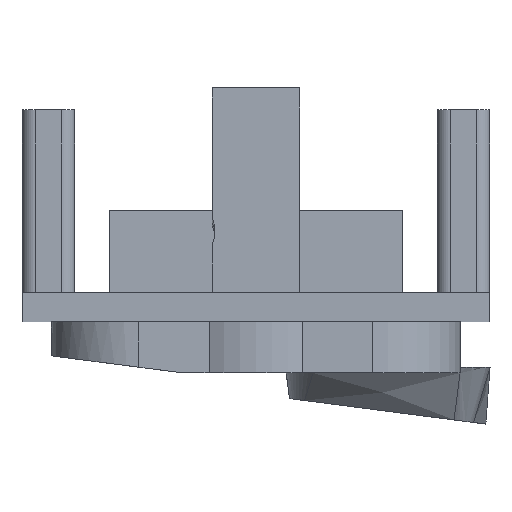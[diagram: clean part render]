
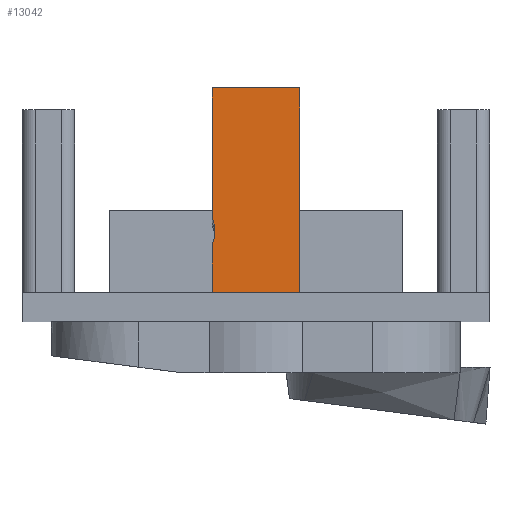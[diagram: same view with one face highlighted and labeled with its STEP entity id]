
A CAD part, left-side view. The second image highlights one B-rep face of the part: STEP entity #13042.
In plain terms, the highlighted planar face has unit normal (-1, 0, 0).
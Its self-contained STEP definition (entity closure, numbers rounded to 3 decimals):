
#6708 = PLANE('',#6709);
#6709 = AXIS2_PLACEMENT_3D('',#6710,#6711,#6712);
#6710 = CARTESIAN_POINT('',(-13.2,-55.,-9.9));
#6711 = DIRECTION('',(0.,0.,1.));
#6712 = DIRECTION('',(1.,0.,-0.));
#11300 = VERTEX_POINT('',#11301);
#11301 = CARTESIAN_POINT('',(-10.9,-48.5,-9.9));
#11317 = PLANE('',#11318);
#11318 = AXIS2_PLACEMENT_3D('',#11319,#11320,#11321);
#11319 = CARTESIAN_POINT('',(-10.,-48.5,-6.955));
#11320 = DIRECTION('',(0.,1.,0.));
#11321 = DIRECTION('',(0.,-0.,1.));
#11329 = EDGE_CURVE('',#11330,#11300,#11332,.T.);
#11330 = VERTEX_POINT('',#11331);
#11331 = CARTESIAN_POINT('',(-10.9,-45.5,-9.9));
#11332 = SURFACE_CURVE('',#11333,(#11337,#11344),.PCURVE_S1.);
#11333 = LINE('',#11334,#11335);
#11334 = CARTESIAN_POINT('',(-10.9,-51.,-9.9));
#11335 = VECTOR('',#11336,1.);
#11336 = DIRECTION('',(0.,-1.,0.));
#11337 = PCURVE('',#6708,#11338);
#11338 = DEFINITIONAL_REPRESENTATION('',(#11339),#11343);
#11339 = LINE('',#11340,#11341);
#11340 = CARTESIAN_POINT('',(2.3,4.));
#11341 = VECTOR('',#11342,1.);
#11342 = DIRECTION('',(0.,-1.));
#11343 = ( GEOMETRIC_REPRESENTATION_CONTEXT(2) 
PARAMETRIC_REPRESENTATION_CONTEXT() REPRESENTATION_CONTEXT('2D SPACE',''
  ) );
#11344 = PCURVE('',#11345,#11350);
#11345 = PLANE('',#11346);
#11346 = AXIS2_PLACEMENT_3D('',#11347,#11348,#11349);
#11347 = CARTESIAN_POINT('',(-10.9,-47.,-6.955));
#11348 = DIRECTION('',(1.,0.,0.));
#11349 = DIRECTION('',(0.,0.,-1.));
#11350 = DEFINITIONAL_REPRESENTATION('',(#11351),#11355);
#11351 = LINE('',#11352,#11353);
#11352 = CARTESIAN_POINT('',(2.945,-4.));
#11353 = VECTOR('',#11354,1.);
#11354 = DIRECTION('',(0.,-1.));
#11355 = ( GEOMETRIC_REPRESENTATION_CONTEXT(2) 
PARAMETRIC_REPRESENTATION_CONTEXT() REPRESENTATION_CONTEXT('2D SPACE',''
  ) );
#11373 = PLANE('',#11374);
#11374 = AXIS2_PLACEMENT_3D('',#11375,#11376,#11377);
#11375 = CARTESIAN_POINT('',(-10.,-45.5,-6.955));
#11376 = DIRECTION('',(0.,-1.,0.));
#11377 = DIRECTION('',(0.,0.,-1.));
#12994 = EDGE_CURVE('',#12995,#11300,#12997,.T.);
#12995 = VERTEX_POINT('',#12996);
#12996 = CARTESIAN_POINT('',(-10.9,-48.5,-2.9));
#12997 = SURFACE_CURVE('',#12998,(#13002,#13009),.PCURVE_S1.);
#12998 = LINE('',#12999,#13000);
#12999 = CARTESIAN_POINT('',(-10.9,-48.5,-2.95));
#13000 = VECTOR('',#13001,1.);
#13001 = DIRECTION('',(0.,0.,-1.));
#13002 = PCURVE('',#11317,#13003);
#13003 = DEFINITIONAL_REPRESENTATION('',(#13004),#13008);
#13004 = LINE('',#13005,#13006);
#13005 = CARTESIAN_POINT('',(4.005,-0.9));
#13006 = VECTOR('',#13007,1.);
#13007 = DIRECTION('',(-1.,0.));
#13008 = ( GEOMETRIC_REPRESENTATION_CONTEXT(2) 
PARAMETRIC_REPRESENTATION_CONTEXT() REPRESENTATION_CONTEXT('2D SPACE',''
  ) );
#13009 = PCURVE('',#11345,#13010);
#13010 = DEFINITIONAL_REPRESENTATION('',(#13011),#13015);
#13011 = LINE('',#13012,#13013);
#13012 = CARTESIAN_POINT('',(-4.005,-1.5));
#13013 = VECTOR('',#13014,1.);
#13014 = DIRECTION('',(1.,0.));
#13015 = ( GEOMETRIC_REPRESENTATION_CONTEXT(2) 
PARAMETRIC_REPRESENTATION_CONTEXT() REPRESENTATION_CONTEXT('2D SPACE',''
  ) );
#13031 = PLANE('',#13032);
#13032 = AXIS2_PLACEMENT_3D('',#13033,#13034,#13035);
#13033 = CARTESIAN_POINT('',(-10.,-47.,-2.9));
#13034 = DIRECTION('',(0.,0.,1.));
#13035 = DIRECTION('',(1.,0.,-0.));
#13042 = ADVANCED_FACE('',(#13043),#11345,.F.);
#13043 = FACE_BOUND('',#13044,.F.);
#13044 = EDGE_LOOP('',(#13045,#13068,#13069,#13070,#13093,#13122));
#13045 = ORIENTED_EDGE('',*,*,#13046,.T.);
#13046 = EDGE_CURVE('',#13047,#12995,#13049,.T.);
#13047 = VERTEX_POINT('',#13048);
#13048 = CARTESIAN_POINT('',(-10.9,-45.5,-2.9));
#13049 = SURFACE_CURVE('',#13050,(#13054,#13061),.PCURVE_S1.);
#13050 = LINE('',#13051,#13052);
#13051 = CARTESIAN_POINT('',(-10.9,-47.,-2.9));
#13052 = VECTOR('',#13053,1.);
#13053 = DIRECTION('',(0.,-1.,0.));
#13054 = PCURVE('',#11345,#13055);
#13055 = DEFINITIONAL_REPRESENTATION('',(#13056),#13060);
#13056 = LINE('',#13057,#13058);
#13057 = CARTESIAN_POINT('',(-4.055,0.));
#13058 = VECTOR('',#13059,1.);
#13059 = DIRECTION('',(0.,-1.));
#13060 = ( GEOMETRIC_REPRESENTATION_CONTEXT(2) 
PARAMETRIC_REPRESENTATION_CONTEXT() REPRESENTATION_CONTEXT('2D SPACE',''
  ) );
#13061 = PCURVE('',#13031,#13062);
#13062 = DEFINITIONAL_REPRESENTATION('',(#13063),#13067);
#13063 = LINE('',#13064,#13065);
#13064 = CARTESIAN_POINT('',(-0.9,0.));
#13065 = VECTOR('',#13066,1.);
#13066 = DIRECTION('',(0.,-1.));
#13067 = ( GEOMETRIC_REPRESENTATION_CONTEXT(2) 
PARAMETRIC_REPRESENTATION_CONTEXT() REPRESENTATION_CONTEXT('2D SPACE',''
  ) );
#13068 = ORIENTED_EDGE('',*,*,#12994,.T.);
#13069 = ORIENTED_EDGE('',*,*,#11329,.F.);
#13070 = ORIENTED_EDGE('',*,*,#13071,.F.);
#13071 = EDGE_CURVE('',#13072,#11330,#13074,.T.);
#13072 = VERTEX_POINT('',#13073);
#13073 = CARTESIAN_POINT('',(-10.9,-45.5,-8.258));
#13074 = SURFACE_CURVE('',#13075,(#13079,#13086),.PCURVE_S1.);
#13075 = LINE('',#13076,#13077);
#13076 = CARTESIAN_POINT('',(-10.9,-45.5,-2.95));
#13077 = VECTOR('',#13078,1.);
#13078 = DIRECTION('',(0.,0.,-1.));
#13079 = PCURVE('',#11345,#13080);
#13080 = DEFINITIONAL_REPRESENTATION('',(#13081),#13085);
#13081 = LINE('',#13082,#13083);
#13082 = CARTESIAN_POINT('',(-4.005,1.5));
#13083 = VECTOR('',#13084,1.);
#13084 = DIRECTION('',(1.,0.));
#13085 = ( GEOMETRIC_REPRESENTATION_CONTEXT(2) 
PARAMETRIC_REPRESENTATION_CONTEXT() REPRESENTATION_CONTEXT('2D SPACE',''
  ) );
#13086 = PCURVE('',#11373,#13087);
#13087 = DEFINITIONAL_REPRESENTATION('',(#13088),#13092);
#13088 = LINE('',#13089,#13090);
#13089 = CARTESIAN_POINT('',(-4.005,-0.9));
#13090 = VECTOR('',#13091,1.);
#13091 = DIRECTION('',(1.,0.));
#13092 = ( GEOMETRIC_REPRESENTATION_CONTEXT(2) 
PARAMETRIC_REPRESENTATION_CONTEXT() REPRESENTATION_CONTEXT('2D SPACE',''
  ) );
#13093 = ORIENTED_EDGE('',*,*,#13094,.F.);
#13094 = EDGE_CURVE('',#13095,#13072,#13097,.T.);
#13095 = VERTEX_POINT('',#13096);
#13096 = CARTESIAN_POINT('',(-10.9,-45.5,-7.342));
#13097 = SURFACE_CURVE('',#13098,(#13103,#13110),.PCURVE_S1.);
#13098 = CIRCLE('',#13099,1.1);
#13099 = AXIS2_PLACEMENT_3D('',#13100,#13101,#13102);
#13100 = CARTESIAN_POINT('',(-10.9,-44.5,-7.8));
#13101 = DIRECTION('',(1.,0.,0.));
#13102 = DIRECTION('',(0.,0.411,-0.912));
#13103 = PCURVE('',#11345,#13104);
#13104 = DEFINITIONAL_REPRESENTATION('',(#13105),#13109);
#13105 = CIRCLE('',#13106,1.1);
#13106 = AXIS2_PLACEMENT_2D('',#13107,#13108);
#13107 = CARTESIAN_POINT('',(0.845,2.5));
#13108 = DIRECTION('',(0.912,0.411));
#13109 = ( GEOMETRIC_REPRESENTATION_CONTEXT(2) 
PARAMETRIC_REPRESENTATION_CONTEXT() REPRESENTATION_CONTEXT('2D SPACE',''
  ) );
#13110 = PCURVE('',#13111,#13116);
#13111 = CYLINDRICAL_SURFACE('',#13112,1.1);
#13112 = AXIS2_PLACEMENT_3D('',#13113,#13114,#13115);
#13113 = CARTESIAN_POINT('',(-14.,-44.5,-7.8));
#13114 = DIRECTION('',(1.,0.,0.));
#13115 = DIRECTION('',(0.,0.411,-0.912));
#13116 = DEFINITIONAL_REPRESENTATION('',(#13117),#13121);
#13117 = LINE('',#13118,#13119);
#13118 = CARTESIAN_POINT('',(0.,3.1));
#13119 = VECTOR('',#13120,1.);
#13120 = DIRECTION('',(1.,0.));
#13121 = ( GEOMETRIC_REPRESENTATION_CONTEXT(2) 
PARAMETRIC_REPRESENTATION_CONTEXT() REPRESENTATION_CONTEXT('2D SPACE',''
  ) );
#13122 = ORIENTED_EDGE('',*,*,#13123,.F.);
#13123 = EDGE_CURVE('',#13047,#13095,#13124,.T.);
#13124 = SURFACE_CURVE('',#13125,(#13129,#13136),.PCURVE_S1.);
#13125 = LINE('',#13126,#13127);
#13126 = CARTESIAN_POINT('',(-10.9,-45.5,-2.95));
#13127 = VECTOR('',#13128,1.);
#13128 = DIRECTION('',(0.,0.,-1.));
#13129 = PCURVE('',#11345,#13130);
#13130 = DEFINITIONAL_REPRESENTATION('',(#13131),#13135);
#13131 = LINE('',#13132,#13133);
#13132 = CARTESIAN_POINT('',(-4.005,1.5));
#13133 = VECTOR('',#13134,1.);
#13134 = DIRECTION('',(1.,0.));
#13135 = ( GEOMETRIC_REPRESENTATION_CONTEXT(2) 
PARAMETRIC_REPRESENTATION_CONTEXT() REPRESENTATION_CONTEXT('2D SPACE',''
  ) );
#13136 = PCURVE('',#13137,#13142);
#13137 = PLANE('',#13138);
#13138 = AXIS2_PLACEMENT_3D('',#13139,#13140,#13141);
#13139 = CARTESIAN_POINT('',(-10.,-45.5,-6.955));
#13140 = DIRECTION('',(0.,-1.,0.));
#13141 = DIRECTION('',(0.,0.,-1.));
#13142 = DEFINITIONAL_REPRESENTATION('',(#13143),#13147);
#13143 = LINE('',#13144,#13145);
#13144 = CARTESIAN_POINT('',(-4.005,-0.9));
#13145 = VECTOR('',#13146,1.);
#13146 = DIRECTION('',(1.,0.));
#13147 = ( GEOMETRIC_REPRESENTATION_CONTEXT(2) 
PARAMETRIC_REPRESENTATION_CONTEXT() REPRESENTATION_CONTEXT('2D SPACE',''
  ) );
